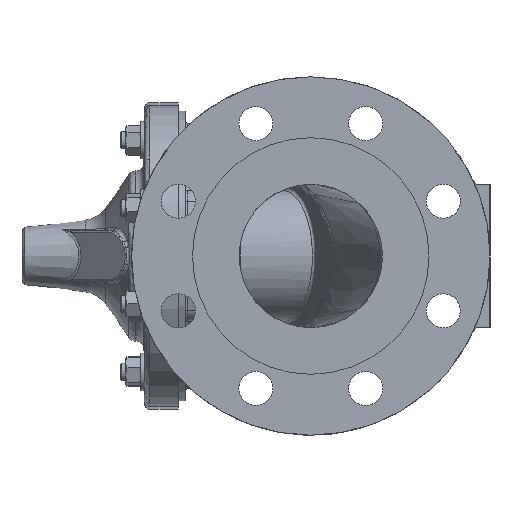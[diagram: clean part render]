
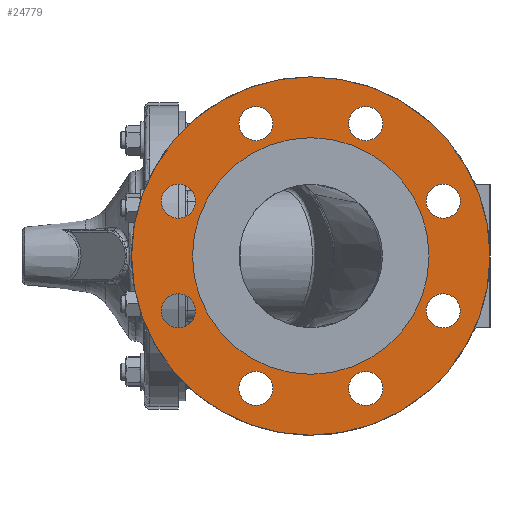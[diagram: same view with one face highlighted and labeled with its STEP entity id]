
A CAD part, left-side view. The second image highlights one B-rep face of the part: STEP entity #24779.
In plain terms, the highlighted planar face has unit normal (-1, 0, 0).
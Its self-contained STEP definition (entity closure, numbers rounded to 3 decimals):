
#4990=FACE_BOUND('',#7064,.T.);
#4991=FACE_BOUND('',#7065,.T.);
#4992=FACE_BOUND('',#7066,.T.);
#4993=FACE_BOUND('',#7067,.T.);
#4994=FACE_BOUND('',#7068,.T.);
#4995=FACE_BOUND('',#7069,.T.);
#4996=FACE_BOUND('',#7070,.T.);
#4997=FACE_BOUND('',#7071,.T.);
#4998=FACE_BOUND('',#7072,.T.);
#5602=FACE_OUTER_BOUND('',#7063,.T.);
#7063=EDGE_LOOP('',(#17803));
#7064=EDGE_LOOP('',(#17804));
#7065=EDGE_LOOP('',(#17805));
#7066=EDGE_LOOP('',(#17806));
#7067=EDGE_LOOP('',(#17807));
#7068=EDGE_LOOP('',(#17808));
#7069=EDGE_LOOP('',(#17809));
#7070=EDGE_LOOP('',(#17810));
#7071=EDGE_LOOP('',(#17811));
#7072=EDGE_LOOP('',(#17812));
#8170=CIRCLE('',#25976,100.);
#8412=CIRCLE('',#26379,9.5);
#8413=CIRCLE('',#26381,9.5);
#8414=CIRCLE('',#26383,9.5);
#8415=CIRCLE('',#26385,9.5);
#8416=CIRCLE('',#26387,9.5);
#8417=CIRCLE('',#26389,9.5);
#8418=CIRCLE('',#26391,9.5);
#8419=CIRCLE('',#26393,9.5);
#8420=CIRCLE('',#26395,66.);
#9464=VERTEX_POINT('',#38459);
#9923=VERTEX_POINT('',#48967);
#9924=VERTEX_POINT('',#48971);
#9925=VERTEX_POINT('',#48975);
#9926=VERTEX_POINT('',#48979);
#9927=VERTEX_POINT('',#48983);
#9928=VERTEX_POINT('',#48987);
#9929=VERTEX_POINT('',#48991);
#9930=VERTEX_POINT('',#48995);
#9931=VERTEX_POINT('',#48999);
#12013=EDGE_CURVE('',#9464,#9464,#8170,.T.);
#12775=EDGE_CURVE('',#9923,#9923,#8412,.T.);
#12777=EDGE_CURVE('',#9924,#9924,#8413,.T.);
#12779=EDGE_CURVE('',#9925,#9925,#8414,.T.);
#12781=EDGE_CURVE('',#9926,#9926,#8415,.T.);
#12783=EDGE_CURVE('',#9927,#9927,#8416,.T.);
#12785=EDGE_CURVE('',#9928,#9928,#8417,.T.);
#12787=EDGE_CURVE('',#9929,#9929,#8418,.T.);
#12789=EDGE_CURVE('',#9930,#9930,#8419,.T.);
#12791=EDGE_CURVE('',#9931,#9931,#8420,.T.);
#17803=ORIENTED_EDGE('',*,*,#12013,.F.);
#17804=ORIENTED_EDGE('',*,*,#12775,.T.);
#17805=ORIENTED_EDGE('',*,*,#12777,.T.);
#17806=ORIENTED_EDGE('',*,*,#12779,.T.);
#17807=ORIENTED_EDGE('',*,*,#12781,.T.);
#17808=ORIENTED_EDGE('',*,*,#12783,.T.);
#17809=ORIENTED_EDGE('',*,*,#12785,.T.);
#17810=ORIENTED_EDGE('',*,*,#12787,.T.);
#17811=ORIENTED_EDGE('',*,*,#12789,.T.);
#17812=ORIENTED_EDGE('',*,*,#12791,.F.);
#22434=PLANE('',#26397);
#24779=ADVANCED_FACE('',(#5602,#4990,#4991,#4992,#4993,#4994,#4995,#4996,
#4997,#4998),#22434,.F.);
#25976=AXIS2_PLACEMENT_3D('',#38461,#28500,#28501);
#26379=AXIS2_PLACEMENT_3D('',#48968,#29444,#29445);
#26381=AXIS2_PLACEMENT_3D('',#48972,#29449,#29450);
#26383=AXIS2_PLACEMENT_3D('',#48976,#29454,#29455);
#26385=AXIS2_PLACEMENT_3D('',#48980,#29459,#29460);
#26387=AXIS2_PLACEMENT_3D('',#48984,#29464,#29465);
#26389=AXIS2_PLACEMENT_3D('',#48988,#29469,#29470);
#26391=AXIS2_PLACEMENT_3D('',#48992,#29474,#29475);
#26393=AXIS2_PLACEMENT_3D('',#48996,#29479,#29480);
#26395=AXIS2_PLACEMENT_3D('',#49000,#29484,#29485);
#26397=AXIS2_PLACEMENT_3D('',#49004,#29489,#29490);
#28500=DIRECTION('center_axis',(1.,0.,0.));
#28501=DIRECTION('ref_axis',(0.,0.,
-1.));
#29444=DIRECTION('center_axis',(1.,0.,0.));
#29445=DIRECTION('ref_axis',(0.,0.707,0.707));
#29449=DIRECTION('center_axis',(1.,0.,0.));
#29450=DIRECTION('ref_axis',(0.,1.,0.));
#29454=DIRECTION('center_axis',(1.,0.,0.));
#29455=DIRECTION('ref_axis',(0.,0.707,-0.707));
#29459=DIRECTION('center_axis',(1.,0.,0.));
#29460=DIRECTION('ref_axis',(0.,0.,
-1.));
#29464=DIRECTION('center_axis',(1.,0.,0.));
#29465=DIRECTION('ref_axis',(0.,-0.707,-0.707));
#29469=DIRECTION('center_axis',(1.,0.,0.));
#29470=DIRECTION('ref_axis',(0.,-1.,0.));
#29474=DIRECTION('center_axis',(1.,0.,0.));
#29475=DIRECTION('ref_axis',(0.,-0.707,0.707));
#29479=DIRECTION('center_axis',(1.,0.,0.));
#29480=DIRECTION('ref_axis',(0.,0.,
1.));
#29484=DIRECTION('center_axis',(-1.,0.,0.));
#29485=DIRECTION('ref_axis',(0.,0.,
-1.));
#29489=DIRECTION('center_axis',(1.,0.,0.));
#29490=DIRECTION('ref_axis',(0.,0.,
-1.));
#38459=CARTESIAN_POINT('',(-152.,-73.85,100.));
#38461=CARTESIAN_POINT('Origin',(-152.,-73.85,0.));
#48967=CARTESIAN_POINT('',(-152.,-154.478,-37.332));
#48968=CARTESIAN_POINT('Origin',(-152.,-147.76,-30.615));
#48971=CARTESIAN_POINT('',(-152.,-157.26,30.615));
#48972=CARTESIAN_POINT('Origin',(-152.,-147.76,30.615));
#48975=CARTESIAN_POINT('',(-152.,-111.182,80.628));
#48976=CARTESIAN_POINT('Origin',(-152.,-104.465,73.91));
#48979=CARTESIAN_POINT('',(-152.,-43.235,83.41));
#48980=CARTESIAN_POINT('Origin',(-152.,-43.235,73.91));
#48983=CARTESIAN_POINT('',(-152.,6.778,37.332));
#48984=CARTESIAN_POINT('Origin',(-152.,0.06,30.615));
#48987=CARTESIAN_POINT('',(-152.,9.56,-30.615));
#48988=CARTESIAN_POINT('Origin',(-152.,0.06,-30.615));
#48991=CARTESIAN_POINT('',(-152.,-36.518,-80.628));
#48992=CARTESIAN_POINT('Origin',(-152.,-43.235,-73.91));
#48995=CARTESIAN_POINT('',(-152.,-104.465,-83.41));
#48996=CARTESIAN_POINT('Origin',(-152.,-104.465,-73.91));
#48999=CARTESIAN_POINT('',(-152.,-73.85,66.));
#49000=CARTESIAN_POINT('Origin',(-152.,-73.85,0.));
#49004=CARTESIAN_POINT('Origin',(-152.,-73.85,0.));
